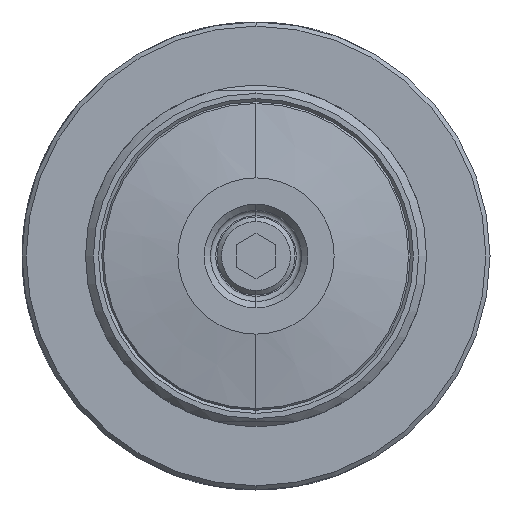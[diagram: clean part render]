
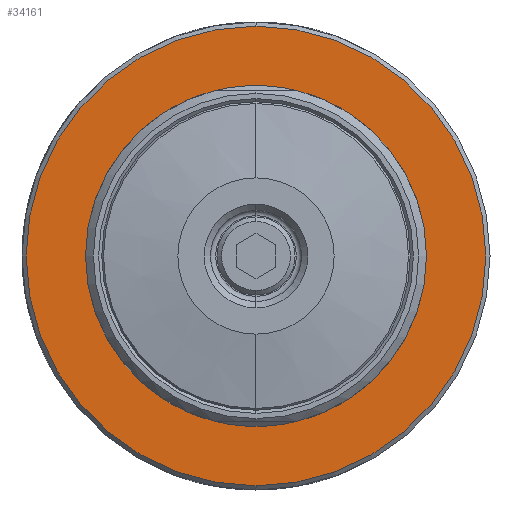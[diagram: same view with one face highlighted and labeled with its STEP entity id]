
A CAD part, left-side view. The second image highlights one B-rep face of the part: STEP entity #34161.
In plain terms, the highlighted planar face has unit normal (-1, 0, 0).
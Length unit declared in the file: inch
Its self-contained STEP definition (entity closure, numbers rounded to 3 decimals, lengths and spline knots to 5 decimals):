
#29709 = CARTESIAN_POINT ( 'NONE',  ( -0.562, 0., 0.81 ) ) ;
#29710 = DIRECTION ( 'NONE',  ( 0., 0., 1. ) ) ;
#29711 = DIRECTION ( 'NONE',  ( -1., 0., 0. ) ) ;
#29712 = CARTESIAN_POINT ( 'NONE',  ( -0.562, 0., 0. ) ) ;
#29713 = AXIS2_PLACEMENT_3D ( 'NONE', #29712, #29711, #29710 ) ;
#29714 = CIRCLE ( 'NONE', #29713, 0.81 ) ;
#29715 = CARTESIAN_POINT ( 'NONE',  ( -0.562, 0., -0.81 ) ) ;
#31939 = CARTESIAN_POINT ( 'NONE',  ( -0.562, 0., -1.1025 ) ) ;
#31940 = CARTESIAN_POINT ( 'NONE',  ( -0.562, 0., 1.1025 ) ) ;
#31942 = DIRECTION ( 'NONE',  ( 0., 0., 1. ) ) ;
#31943 = DIRECTION ( 'NONE',  ( -1., 0., 0. ) ) ;
#31945 = CARTESIAN_POINT ( 'NONE',  ( -0.562, 0., 0. ) ) ;
#31947 = AXIS2_PLACEMENT_3D ( 'NONE', #31945, #31943, #31942 ) ;
#31948 = CIRCLE ( 'NONE', #31947, 1.1025 ) ;
#34124 = EDGE_CURVE ( 'NONE', #42758, #42757, #41205, .T. ) ;
#34125 = ORIENTED_EDGE ( 'NONE', *, *, #42756, .T. ) ;
#34126 = EDGE_LOOP ( 'NONE', ( #34127, #34128 ) ) ;
#34127 = ORIENTED_EDGE ( 'NONE', *, *, #34160, .F. ) ;
#34128 = ORIENTED_EDGE ( 'NONE', *, *, #40345, .F. ) ;
#34160 = EDGE_CURVE ( 'NONE', #40346, #40343, #41766, .T. ) ;
#34161 = ADVANCED_FACE ( 'NONE', ( #41641, #41533 ), #41492, .T. ) ;
#34162 = ORIENTED_EDGE ( 'NONE', *, *, #34124, .T. ) ;
#34248 = EDGE_LOOP ( 'NONE', ( #34162, #34125 ) ) ;
#40343 = VERTEX_POINT ( 'NONE', #29715 ) ;
#40345 = EDGE_CURVE ( 'NONE', #40343, #40346, #29714, .T. ) ;
#40346 = VERTEX_POINT ( 'NONE', #29709 ) ;
#41202 = DIRECTION ( 'NONE',  ( -1., 0., 0. ) ) ;
#41203 = CARTESIAN_POINT ( 'NONE',  ( -0.562, 0., 0. ) ) ;
#41204 = AXIS2_PLACEMENT_3D ( 'NONE', #41203, #41202, #41280 ) ;
#41205 = CIRCLE ( 'NONE', #41204, 1.1025 ) ;
#41280 = DIRECTION ( 'NONE',  ( 0., 0., 1. ) ) ;
#41393 = DIRECTION ( 'NONE',  ( 0., 0., 1. ) ) ;
#41492 = PLANE ( 'NONE',  #41570 ) ;
#41524 = DIRECTION ( 'NONE',  ( 0., 0., 1. ) ) ;
#41533 = FACE_BOUND ( 'NONE', #34126, .T. ) ;
#41550 = AXIS2_PLACEMENT_3D ( 'NONE', #41660, #41659, #41393 ) ;
#41568 = DIRECTION ( 'NONE',  ( -1., 0., 0. ) ) ;
#41569 = CARTESIAN_POINT ( 'NONE',  ( -0.562, 0.81, 0. ) ) ;
#41570 = AXIS2_PLACEMENT_3D ( 'NONE', #41569, #41568, #41524 ) ;
#41641 = FACE_OUTER_BOUND ( 'NONE', #34248, .T. ) ;
#41659 = DIRECTION ( 'NONE',  ( -1., 0., 0. ) ) ;
#41660 = CARTESIAN_POINT ( 'NONE',  ( -0.562, 0., 0. ) ) ;
#41766 = CIRCLE ( 'NONE', #41550, 0.81 ) ;
#42756 = EDGE_CURVE ( 'NONE', #42757, #42758, #31948, .T. ) ;
#42757 = VERTEX_POINT ( 'NONE', #31940 ) ;
#42758 = VERTEX_POINT ( 'NONE', #31939 ) ;
